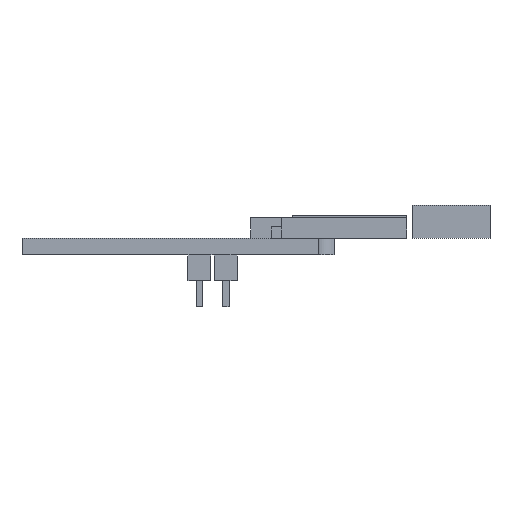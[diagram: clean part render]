
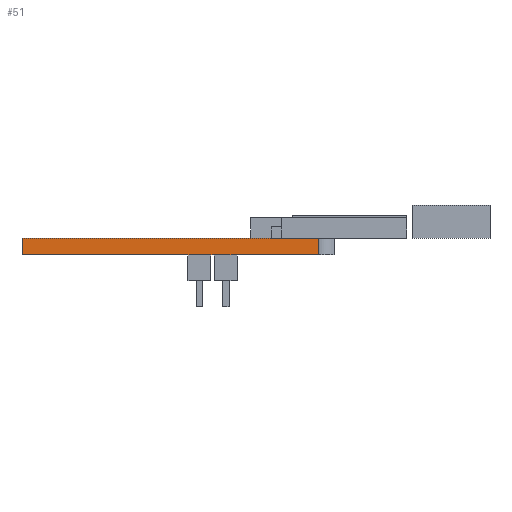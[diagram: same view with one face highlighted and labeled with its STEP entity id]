
A CAD part, left-side view. The second image highlights one B-rep face of the part: STEP entity #51.
In plain terms, the highlighted planar face has unit normal (-1, 0, 0).
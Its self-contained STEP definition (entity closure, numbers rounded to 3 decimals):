
#51 = ADVANCED_FACE('',(#52),#66,.F.);
#52 = FACE_BOUND('',#53,.F.);
#53 = EDGE_LOOP('',(#54,#89,#115,#143,#171,#194,#222,#245,#273));
#54 = ORIENTED_EDGE('',*,*,#55,.F.);
#55 = EDGE_CURVE('',#56,#58,#60,.T.);
#56 = VERTEX_POINT('',#57);
#57 = CARTESIAN_POINT('',(0.,1.5,1.6));
#58 = VERTEX_POINT('',#59);
#59 = CARTESIAN_POINT('',(0.,5.,1.6));
#60 = SURFACE_CURVE('',#61,(#65,#77),.PCURVE_S1.);
#61 = LINE('',#62,#63);
#62 = CARTESIAN_POINT('',(0.,0.,1.6));
#63 = VECTOR('',#64,1.);
#64 = DIRECTION('',(0.,1.,0.));
#65 = PCURVE('',#66,#71);
#66 = PLANE('',#67);
#67 = AXIS2_PLACEMENT_3D('',#68,#69,#70);
#68 = CARTESIAN_POINT('',(0.,0.,0.));
#69 = DIRECTION('',(1.,0.,0.));
#70 = DIRECTION('',(0.,0.,1.));
#71 = DEFINITIONAL_REPRESENTATION('',(#72),#76);
#72 = LINE('',#73,#74);
#73 = CARTESIAN_POINT('',(1.6,0.));
#74 = VECTOR('',#75,1.);
#75 = DIRECTION('',(0.,-1.));
#76 = ( GEOMETRIC_REPRESENTATION_CONTEXT(2) 
PARAMETRIC_REPRESENTATION_CONTEXT() REPRESENTATION_CONTEXT('2D SPACE',''
  ) );
#77 = PCURVE('',#78,#83);
#78 = PLANE('',#79);
#79 = AXIS2_PLACEMENT_3D('',#80,#81,#82);
#80 = CARTESIAN_POINT('',(-4.5,-6.,1.6));
#81 = DIRECTION('',(0.,0.,1.));
#82 = DIRECTION('',(1.,0.,0.));
#83 = DEFINITIONAL_REPRESENTATION('',(#84),#88);
#84 = LINE('',#85,#86);
#85 = CARTESIAN_POINT('',(4.5,6.));
#86 = VECTOR('',#87,1.);
#87 = DIRECTION('',(0.,1.));
#88 = ( GEOMETRIC_REPRESENTATION_CONTEXT(2) 
PARAMETRIC_REPRESENTATION_CONTEXT() REPRESENTATION_CONTEXT('2D SPACE',''
  ) );
#89 = ORIENTED_EDGE('',*,*,#90,.T.);
#90 = EDGE_CURVE('',#56,#91,#93,.T.);
#91 = VERTEX_POINT('',#92);
#92 = CARTESIAN_POINT('',(0.,1.5,0.));
#93 = SURFACE_CURVE('',#94,(#98,#104),.PCURVE_S1.);
#94 = LINE('',#95,#96);
#95 = CARTESIAN_POINT('',(0.,1.5,1.6));
#96 = VECTOR('',#97,1.);
#97 = DIRECTION('',(0.,0.,-1.));
#98 = PCURVE('',#66,#99);
#99 = DEFINITIONAL_REPRESENTATION('',(#100),#103);
#100 = B_SPLINE_CURVE_WITH_KNOTS('',1,(#101,#102),.UNSPECIFIED.,.F.,.F.,
  (2,2),(0.,1.76),.PIECEWISE_BEZIER_KNOTS.);
#101 = CARTESIAN_POINT('',(1.6,-1.5));
#102 = CARTESIAN_POINT('',(-0.16,-1.5));
#103 = ( GEOMETRIC_REPRESENTATION_CONTEXT(2) 
PARAMETRIC_REPRESENTATION_CONTEXT() REPRESENTATION_CONTEXT('2D SPACE',''
  ) );
#104 = PCURVE('',#105,#110);
#105 = CYLINDRICAL_SURFACE('',#106,1.5);
#106 = AXIS2_PLACEMENT_3D('',#107,#108,#109);
#107 = CARTESIAN_POINT('',(0.,0.,1.6));
#108 = DIRECTION('',(0.,0.,-1.));
#109 = DIRECTION('',(-1.,0.,0.));
#110 = DEFINITIONAL_REPRESENTATION('',(#111),#114);
#111 = B_SPLINE_CURVE_WITH_KNOTS('',1,(#112,#113),.UNSPECIFIED.,.F.,.F.,
  (2,2),(0.,1.76),.PIECEWISE_BEZIER_KNOTS.);
#112 = CARTESIAN_POINT('',(1.571,0.));
#113 = CARTESIAN_POINT('',(1.571,1.76));
#114 = ( GEOMETRIC_REPRESENTATION_CONTEXT(2) 
PARAMETRIC_REPRESENTATION_CONTEXT() REPRESENTATION_CONTEXT('2D SPACE',''
  ) );
#115 = ORIENTED_EDGE('',*,*,#116,.T.);
#116 = EDGE_CURVE('',#91,#117,#119,.T.);
#117 = VERTEX_POINT('',#118);
#118 = CARTESIAN_POINT('',(0.,9.3,0.));
#119 = SURFACE_CURVE('',#120,(#124,#131),.PCURVE_S1.);
#120 = LINE('',#121,#122);
#121 = CARTESIAN_POINT('',(0.,0.,0.));
#122 = VECTOR('',#123,1.);
#123 = DIRECTION('',(0.,1.,0.));
#124 = PCURVE('',#66,#125);
#125 = DEFINITIONAL_REPRESENTATION('',(#126),#130);
#126 = LINE('',#127,#128);
#127 = CARTESIAN_POINT('',(0.,0.));
#128 = VECTOR('',#129,1.);
#129 = DIRECTION('',(0.,-1.));
#130 = ( GEOMETRIC_REPRESENTATION_CONTEXT(2) 
PARAMETRIC_REPRESENTATION_CONTEXT() REPRESENTATION_CONTEXT('2D SPACE',''
  ) );
#131 = PCURVE('',#132,#137);
#132 = PLANE('',#133);
#133 = AXIS2_PLACEMENT_3D('',#134,#135,#136);
#134 = CARTESIAN_POINT('',(0.,0.,0.));
#135 = DIRECTION('',(0.,0.,1.));
#136 = DIRECTION('',(1.,0.,0.));
#137 = DEFINITIONAL_REPRESENTATION('',(#138),#142);
#138 = LINE('',#139,#140);
#139 = CARTESIAN_POINT('',(0.,0.));
#140 = VECTOR('',#141,1.);
#141 = DIRECTION('',(0.,1.));
#142 = ( GEOMETRIC_REPRESENTATION_CONTEXT(2) 
PARAMETRIC_REPRESENTATION_CONTEXT() REPRESENTATION_CONTEXT('2D SPACE',''
  ) );
#143 = ORIENTED_EDGE('',*,*,#144,.T.);
#144 = EDGE_CURVE('',#117,#145,#147,.T.);
#145 = VERTEX_POINT('',#146);
#146 = CARTESIAN_POINT('',(0.,11.5,0.));
#147 = SURFACE_CURVE('',#148,(#152,#159),.PCURVE_S1.);
#148 = LINE('',#149,#150);
#149 = CARTESIAN_POINT('',(0.,0.,0.));
#150 = VECTOR('',#151,1.);
#151 = DIRECTION('',(0.,1.,0.));
#152 = PCURVE('',#66,#153);
#153 = DEFINITIONAL_REPRESENTATION('',(#154),#158);
#154 = LINE('',#155,#156);
#155 = CARTESIAN_POINT('',(0.,0.));
#156 = VECTOR('',#157,1.);
#157 = DIRECTION('',(0.,-1.));
#158 = ( GEOMETRIC_REPRESENTATION_CONTEXT(2) 
PARAMETRIC_REPRESENTATION_CONTEXT() REPRESENTATION_CONTEXT('2D SPACE',''
  ) );
#159 = PCURVE('',#160,#165);
#160 = PLANE('',#161);
#161 = AXIS2_PLACEMENT_3D('',#162,#163,#164);
#162 = CARTESIAN_POINT('',(-26.15,9.3,0.));
#163 = DIRECTION('',(0.,0.,1.));
#164 = DIRECTION('',(1.,0.,0.));
#165 = DEFINITIONAL_REPRESENTATION('',(#166),#170);
#166 = LINE('',#167,#168);
#167 = CARTESIAN_POINT('',(26.15,-9.3));
#168 = VECTOR('',#169,1.);
#169 = DIRECTION('',(0.,1.));
#170 = ( GEOMETRIC_REPRESENTATION_CONTEXT(2) 
PARAMETRIC_REPRESENTATION_CONTEXT() REPRESENTATION_CONTEXT('2D SPACE',''
  ) );
#171 = ORIENTED_EDGE('',*,*,#172,.T.);
#172 = EDGE_CURVE('',#145,#173,#175,.T.);
#173 = VERTEX_POINT('',#174);
#174 = CARTESIAN_POINT('',(0.,11.84,0.));
#175 = SURFACE_CURVE('',#176,(#180,#187),.PCURVE_S1.);
#176 = LINE('',#177,#178);
#177 = CARTESIAN_POINT('',(0.,0.,0.));
#178 = VECTOR('',#179,1.);
#179 = DIRECTION('',(0.,1.,0.));
#180 = PCURVE('',#66,#181);
#181 = DEFINITIONAL_REPRESENTATION('',(#182),#186);
#182 = LINE('',#183,#184);
#183 = CARTESIAN_POINT('',(0.,0.));
#184 = VECTOR('',#185,1.);
#185 = DIRECTION('',(0.,-1.));
#186 = ( GEOMETRIC_REPRESENTATION_CONTEXT(2) 
PARAMETRIC_REPRESENTATION_CONTEXT() REPRESENTATION_CONTEXT('2D SPACE',''
  ) );
#187 = PCURVE('',#132,#188);
#188 = DEFINITIONAL_REPRESENTATION('',(#189),#193);
#189 = LINE('',#190,#191);
#190 = CARTESIAN_POINT('',(0.,0.));
#191 = VECTOR('',#192,1.);
#192 = DIRECTION('',(0.,1.));
#193 = ( GEOMETRIC_REPRESENTATION_CONTEXT(2) 
PARAMETRIC_REPRESENTATION_CONTEXT() REPRESENTATION_CONTEXT('2D SPACE',''
  ) );
#194 = ORIENTED_EDGE('',*,*,#195,.T.);
#195 = EDGE_CURVE('',#173,#196,#198,.T.);
#196 = VERTEX_POINT('',#197);
#197 = CARTESIAN_POINT('',(0.,14.04,0.));
#198 = SURFACE_CURVE('',#199,(#203,#210),.PCURVE_S1.);
#199 = LINE('',#200,#201);
#200 = CARTESIAN_POINT('',(0.,0.,0.));
#201 = VECTOR('',#202,1.);
#202 = DIRECTION('',(0.,1.,0.));
#203 = PCURVE('',#66,#204);
#204 = DEFINITIONAL_REPRESENTATION('',(#205),#209);
#205 = LINE('',#206,#207);
#206 = CARTESIAN_POINT('',(0.,0.));
#207 = VECTOR('',#208,1.);
#208 = DIRECTION('',(0.,-1.));
#209 = ( GEOMETRIC_REPRESENTATION_CONTEXT(2) 
PARAMETRIC_REPRESENTATION_CONTEXT() REPRESENTATION_CONTEXT('2D SPACE',''
  ) );
#210 = PCURVE('',#211,#216);
#211 = PLANE('',#212);
#212 = AXIS2_PLACEMENT_3D('',#213,#214,#215);
#213 = CARTESIAN_POINT('',(-26.15,11.84,0.));
#214 = DIRECTION('',(0.,0.,1.));
#215 = DIRECTION('',(1.,0.,0.));
#216 = DEFINITIONAL_REPRESENTATION('',(#217),#221);
#217 = LINE('',#218,#219);
#218 = CARTESIAN_POINT('',(26.15,-11.84));
#219 = VECTOR('',#220,1.);
#220 = DIRECTION('',(0.,1.));
#221 = ( GEOMETRIC_REPRESENTATION_CONTEXT(2) 
PARAMETRIC_REPRESENTATION_CONTEXT() REPRESENTATION_CONTEXT('2D SPACE',''
  ) );
#222 = ORIENTED_EDGE('',*,*,#223,.T.);
#223 = EDGE_CURVE('',#196,#224,#226,.T.);
#224 = VERTEX_POINT('',#225);
#225 = CARTESIAN_POINT('',(0.,30.,0.));
#226 = SURFACE_CURVE('',#227,(#231,#238),.PCURVE_S1.);
#227 = LINE('',#228,#229);
#228 = CARTESIAN_POINT('',(0.,0.,0.));
#229 = VECTOR('',#230,1.);
#230 = DIRECTION('',(0.,1.,0.));
#231 = PCURVE('',#66,#232);
#232 = DEFINITIONAL_REPRESENTATION('',(#233),#237);
#233 = LINE('',#234,#235);
#234 = CARTESIAN_POINT('',(0.,0.));
#235 = VECTOR('',#236,1.);
#236 = DIRECTION('',(0.,-1.));
#237 = ( GEOMETRIC_REPRESENTATION_CONTEXT(2) 
PARAMETRIC_REPRESENTATION_CONTEXT() REPRESENTATION_CONTEXT('2D SPACE',''
  ) );
#238 = PCURVE('',#132,#239);
#239 = DEFINITIONAL_REPRESENTATION('',(#240),#244);
#240 = LINE('',#241,#242);
#241 = CARTESIAN_POINT('',(0.,0.));
#242 = VECTOR('',#243,1.);
#243 = DIRECTION('',(0.,1.));
#244 = ( GEOMETRIC_REPRESENTATION_CONTEXT(2) 
PARAMETRIC_REPRESENTATION_CONTEXT() REPRESENTATION_CONTEXT('2D SPACE',''
  ) );
#245 = ORIENTED_EDGE('',*,*,#246,.T.);
#246 = EDGE_CURVE('',#224,#247,#249,.T.);
#247 = VERTEX_POINT('',#248);
#248 = CARTESIAN_POINT('',(0.,30.,1.6));
#249 = SURFACE_CURVE('',#250,(#254,#261),.PCURVE_S1.);
#250 = LINE('',#251,#252);
#251 = CARTESIAN_POINT('',(0.,30.,0.));
#252 = VECTOR('',#253,1.);
#253 = DIRECTION('',(0.,0.,1.));
#254 = PCURVE('',#66,#255);
#255 = DEFINITIONAL_REPRESENTATION('',(#256),#260);
#256 = LINE('',#257,#258);
#257 = CARTESIAN_POINT('',(0.,-30.));
#258 = VECTOR('',#259,1.);
#259 = DIRECTION('',(1.,0.));
#260 = ( GEOMETRIC_REPRESENTATION_CONTEXT(2) 
PARAMETRIC_REPRESENTATION_CONTEXT() REPRESENTATION_CONTEXT('2D SPACE',''
  ) );
#261 = PCURVE('',#262,#267);
#262 = PLANE('',#263);
#263 = AXIS2_PLACEMENT_3D('',#264,#265,#266);
#264 = CARTESIAN_POINT('',(0.,30.,0.));
#265 = DIRECTION('',(0.,1.,0.));
#266 = DIRECTION('',(0.,0.,1.));
#267 = DEFINITIONAL_REPRESENTATION('',(#268),#272);
#268 = LINE('',#269,#270);
#269 = CARTESIAN_POINT('',(0.,0.));
#270 = VECTOR('',#271,1.);
#271 = DIRECTION('',(1.,0.));
#272 = ( GEOMETRIC_REPRESENTATION_CONTEXT(2) 
PARAMETRIC_REPRESENTATION_CONTEXT() REPRESENTATION_CONTEXT('2D SPACE',''
  ) );
#273 = ORIENTED_EDGE('',*,*,#274,.F.);
#274 = EDGE_CURVE('',#58,#247,#275,.T.);
#275 = SURFACE_CURVE('',#276,(#280,#287),.PCURVE_S1.);
#276 = LINE('',#277,#278);
#277 = CARTESIAN_POINT('',(0.,0.,1.6));
#278 = VECTOR('',#279,1.);
#279 = DIRECTION('',(0.,1.,0.));
#280 = PCURVE('',#66,#281);
#281 = DEFINITIONAL_REPRESENTATION('',(#282),#286);
#282 = LINE('',#283,#284);
#283 = CARTESIAN_POINT('',(1.6,0.));
#284 = VECTOR('',#285,1.);
#285 = DIRECTION('',(0.,-1.));
#286 = ( GEOMETRIC_REPRESENTATION_CONTEXT(2) 
PARAMETRIC_REPRESENTATION_CONTEXT() REPRESENTATION_CONTEXT('2D SPACE',''
  ) );
#287 = PCURVE('',#288,#293);
#288 = PLANE('',#289);
#289 = AXIS2_PLACEMENT_3D('',#290,#291,#292);
#290 = CARTESIAN_POINT('',(0.,0.,1.6));
#291 = DIRECTION('',(0.,0.,1.));
#292 = DIRECTION('',(1.,0.,0.));
#293 = DEFINITIONAL_REPRESENTATION('',(#294),#298);
#294 = LINE('',#295,#296);
#295 = CARTESIAN_POINT('',(0.,0.));
#296 = VECTOR('',#297,1.);
#297 = DIRECTION('',(0.,1.));
#298 = ( GEOMETRIC_REPRESENTATION_CONTEXT(2) 
PARAMETRIC_REPRESENTATION_CONTEXT() REPRESENTATION_CONTEXT('2D SPACE',''
  ) );
